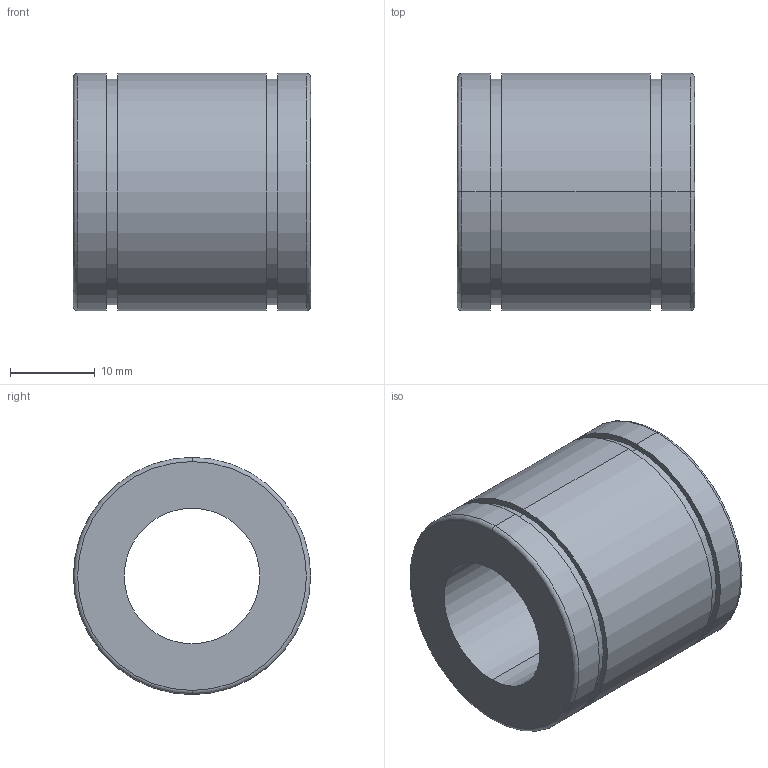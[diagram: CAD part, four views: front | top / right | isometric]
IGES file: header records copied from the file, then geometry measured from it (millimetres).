
Start section: 3D InterOp IGES (Version 21 0 1), Spatial Corp. Copyright (c) 1999-2007.
Global section: file name: N-16VS.igs; native system: Spatial Corp.; preprocessor: 3D InterOp GENERIC/IGES 3.0; author: Noname; organization: Noname; date: 20220311.154044; units: millimetre
Bounding box: 28 x 28 x 28 mm (x, y, z)
Surface area: 4890.1 mm2 (no closed solid volume)
Topology: 0 solids, 0 shells, 22 faces, 88 edges, 88 vertices
Faces by surface type: revolution 16, extrusion 6
